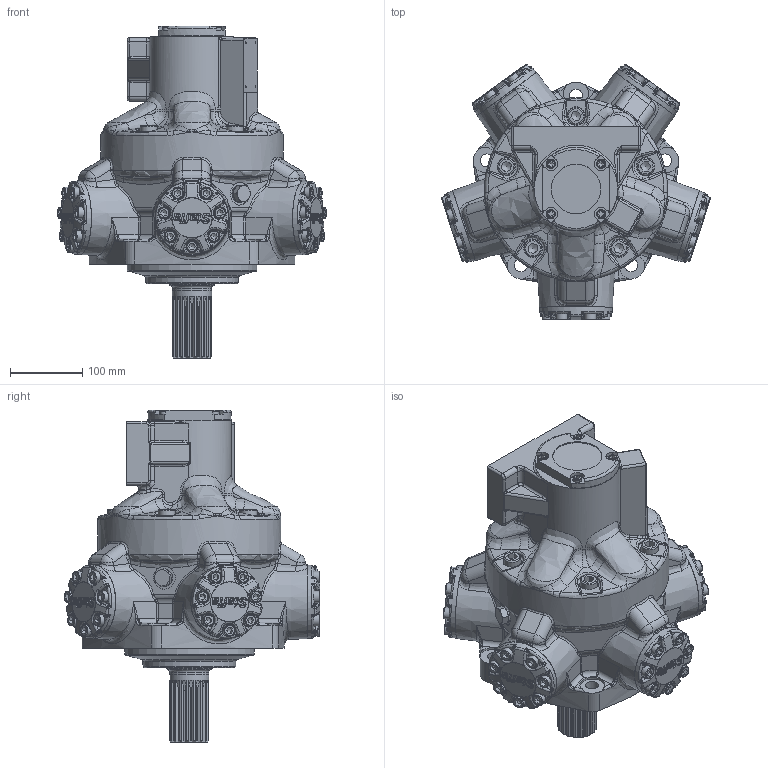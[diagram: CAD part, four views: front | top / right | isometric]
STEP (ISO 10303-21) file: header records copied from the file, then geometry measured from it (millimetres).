
FILE_DESCRIPTION(/* description */ (''),/* implementation_level */ '2;1');
FILE_NAME(/* name */ 'HMB030_Z_SFM3_50.stp',/* time_stamp */ '2025-12-15T09:29:14Z',/* author */ ('ccallanga'),/* organization */ (''),/* preprocessor_version */ 'ST-DEVELOPER v20',/* originating_system */ 'Autodesk Inventor 2024',/* authorisation */ '');
FILE_SCHEMA (('AUTOMOTIVE_DESIGN { 1 0 10303 214 3 1 1 }'));
Products named in the file (1): HMB030 Web Assembly_Simplify_1
Bounding box: 373.48 x 355.32 x 460.99 mm (x, y, z)
Volume: 15263978.3 mm3; surface area: 552614.5 mm2
Topology: 1 solids, 1 shells, 4338 faces, 10483 edges, 6162 vertices
Faces by surface type: bspline 1824, plane 1001, cylinder 892, torus 339, cone 165, sphere 117
Full cylindrical faces by diameter (mm): 2.2 x4, 8.376 x2, 9.4 x1, 10.25 x8, 11.328 x1, 11.913 x4, 12 x1, 12.7 x4, 13.614 x1, 16 x40, 16.5 x35, 17 x5, 17.78 x1, 18 x5, 23.8 x2, 23.825 x5, 25.4 x5, 31.75 x3, 32 x2, 54.369 x1, 63.474 x1, 67.564 x1, 68.58 x1, 179.934 x1, 228.613 x1, 254 x1
Entity records: 196086 total; most frequent: CARTESIAN_POINT 103918, ORIENTED_EDGE 20612, DIRECTION 14351, EDGE_CURVE 10306, VERTEX_POINT 6162, AXIS2_PLACEMENT_3D 5677, EDGE_LOOP 4540, STYLED_ITEM 4339
